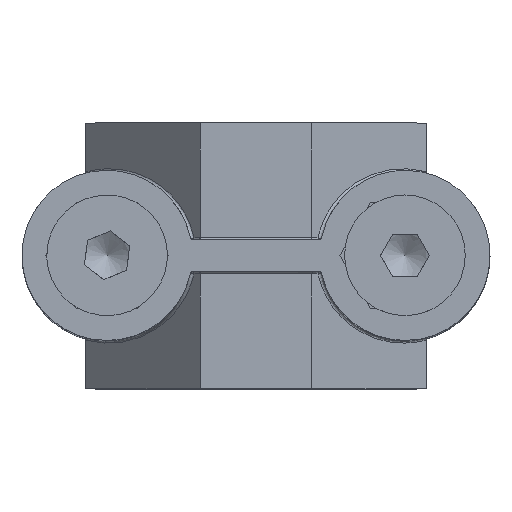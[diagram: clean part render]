
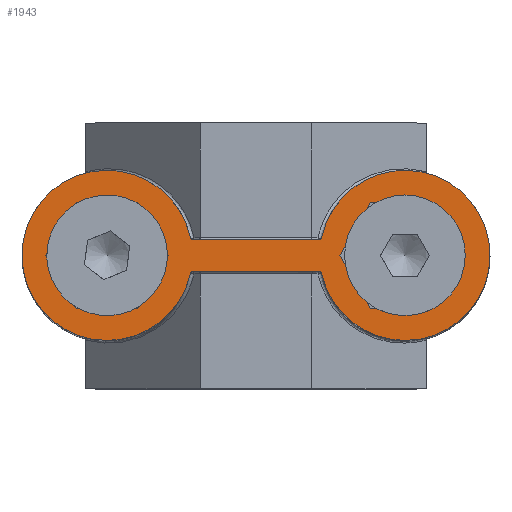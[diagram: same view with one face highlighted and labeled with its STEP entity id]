
A CAD part, top view. The second image highlights one B-rep face of the part: STEP entity #1943.
In plain terms, the highlighted planar face has unit normal (0, 0, 1).
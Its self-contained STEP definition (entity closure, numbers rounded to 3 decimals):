
#84=CARTESIAN_POINT('',(-5.978,-1.5,16.5));
#85=VERTEX_POINT('',#84);
#92=CARTESIAN_POINT('',(-6.174,-1.659,16.5));
#93=VERTEX_POINT('',#92);
#94=CARTESIAN_POINT('',(-5.978,-1.7,16.5));
#95=DIRECTION('',(0.0,0.0,1.0));
#96=DIRECTION('',(-0.63,0.777,0.0));
#97=AXIS2_PLACEMENT_3D('',#94,#95,#96);
#98=CIRCLE('',#97,0.2);
#99=EDGE_CURVE('',#85,#93,#98,.T.);
#220=CARTESIAN_POINT('',(5.978,-1.5,16.5));
#221=VERTEX_POINT('',#220);
#228=CARTESIAN_POINT('',(5.978,-1.5,16.5));
#229=DIRECTION('',(-1.0,0.0,0.0));
#230=VECTOR('',#229,11.956);
#231=LINE('',#228,#230);
#232=EDGE_CURVE('',#221,#85,#231,.T.);
#293=CARTESIAN_POINT('',(-6.174,1.659,16.5));
#294=VERTEX_POINT('',#293);
#301=CARTESIAN_POINT('',(-5.978,1.5,16.5));
#302=VERTEX_POINT('',#301);
#303=CARTESIAN_POINT('',(-5.978,1.7,16.5));
#304=DIRECTION('',(0.0,0.0,1.));
#305=DIRECTION('',(-0.63,-0.777,0.0));
#306=AXIS2_PLACEMENT_3D('',#303,#304,#305);
#307=CIRCLE('',#306,0.2);
#308=EDGE_CURVE('',#294,#302,#307,.T.);
#381=CARTESIAN_POINT('',(5.978,1.5,16.5));
#382=VERTEX_POINT('',#381);
#383=CARTESIAN_POINT('',(-5.978,1.5,16.5));
#384=DIRECTION('',(1.0,0.0,0.0));
#385=VECTOR('',#384,11.956);
#386=LINE('',#383,#385);
#387=EDGE_CURVE('',#302,#382,#386,.T.);
#421=CARTESIAN_POINT('',(6.174,1.659,16.5));
#422=VERTEX_POINT('',#421);
#423=CARTESIAN_POINT('',(5.978,1.7,16.5));
#424=DIRECTION('',(0.0,0.0,1.));
#425=DIRECTION('',(0.63,-0.777,0.0));
#426=AXIS2_PLACEMENT_3D('',#423,#424,#425);
#427=CIRCLE('',#426,0.2);
#428=EDGE_CURVE('',#382,#422,#427,.T.);
#566=CARTESIAN_POINT('',(6.174,-1.659,16.5));
#567=VERTEX_POINT('',#566);
#574=CARTESIAN_POINT('',(5.978,-1.7,16.5));
#575=DIRECTION('',(0.0,0.0,1.0));
#576=DIRECTION('',(0.63,0.777,0.0));
#577=AXIS2_PLACEMENT_3D('',#574,#575,#576);
#578=CIRCLE('',#577,0.2);
#579=EDGE_CURVE('',#567,#221,#578,.T.);
#773=CARTESIAN_POINT('',(-14.0,0.,16.5));
#774=DIRECTION('',(0.0,0.0,-1.0));
#775=DIRECTION('',(1.0,0.0,0.0));
#776=AXIS2_PLACEMENT_3D('',#773,#774,#775);
#777=CIRCLE('',#776,8.0);
#778=EDGE_CURVE('',#93,#294,#777,.T.);
#1158=CARTESIAN_POINT('',(14.0,0.,16.5));
#1159=DIRECTION('',(0.0,0.0,-1.0));
#1160=DIRECTION('',(1.0,0.0,0.0));
#1161=AXIS2_PLACEMENT_3D('',#1158,#1159,#1160);
#1162=CIRCLE('',#1161,8.0);
#1163=EDGE_CURVE('',#422,#567,#1162,.T.);
#1348=CARTESIAN_POINT('',(7.886,0.,16.5));
#1349=VERTEX_POINT('',#1348);
#1356=CARTESIAN_POINT('',(10.772,-5.,16.5));
#1357=VERTEX_POINT('',#1356);
#1358=CARTESIAN_POINT('',(10.772,-5.,16.5));
#1359=DIRECTION('',(-0.5,0.866,0.0));
#1360=VECTOR('',#1359,5.774);
#1361=LINE('',#1358,#1360);
#1362=EDGE_CURVE('',#1357,#1349,#1361,.T.);
#1387=CARTESIAN_POINT('',(16.546,-5.,16.5));
#1388=VERTEX_POINT('',#1387);
#1389=CARTESIAN_POINT('',(16.546,-5.,16.5));
#1390=DIRECTION('',(-1.0,0.0,0.0));
#1391=VECTOR('',#1390,5.774);
#1392=LINE('',#1389,#1391);
#1393=EDGE_CURVE('',#1388,#1357,#1392,.T.);
#1418=CARTESIAN_POINT('',(19.433,0.,16.5));
#1419=VERTEX_POINT('',#1418);
#1420=CARTESIAN_POINT('',(19.433,0.,16.5));
#1421=DIRECTION('',(-0.5,-0.866,0.0));
#1422=VECTOR('',#1421,5.774);
#1423=LINE('',#1420,#1422);
#1424=EDGE_CURVE('',#1419,#1388,#1423,.T.);
#1449=CARTESIAN_POINT('',(16.546,5.,16.5));
#1450=VERTEX_POINT('',#1449);
#1451=CARTESIAN_POINT('',(16.546,5.,16.5));
#1452=DIRECTION('',(0.5,-0.866,0.0));
#1453=VECTOR('',#1452,5.774);
#1454=LINE('',#1451,#1453);
#1455=EDGE_CURVE('',#1450,#1419,#1454,.T.);
#1480=CARTESIAN_POINT('',(10.772,5.,16.5));
#1481=VERTEX_POINT('',#1480);
#1482=CARTESIAN_POINT('',(10.772,5.,16.5));
#1483=DIRECTION('',(1.0,0.0,0.0));
#1484=VECTOR('',#1483,5.774);
#1485=LINE('',#1482,#1484);
#1486=EDGE_CURVE('',#1481,#1450,#1485,.T.);
#1509=CARTESIAN_POINT('',(7.886,0.,16.5));
#1510=DIRECTION('',(0.5,0.866,0.0));
#1511=VECTOR('',#1510,5.774);
#1512=LINE('',#1509,#1511);
#1513=EDGE_CURVE('',#1349,#1481,#1512,.T.);
#1559=CARTESIAN_POINT('',(-16.887,-5.,16.5));
#1560=VERTEX_POINT('',#1559);
#1567=CARTESIAN_POINT('',(-11.113,-5.,16.5));
#1568=VERTEX_POINT('',#1567);
#1569=CARTESIAN_POINT('',(-11.113,-5.,16.5));
#1570=DIRECTION('',(-1.0,0.0,0.0));
#1571=VECTOR('',#1570,5.774);
#1572=LINE('',#1569,#1571);
#1573=EDGE_CURVE('',#1568,#1560,#1572,.T.);
#1598=CARTESIAN_POINT('',(-8.226,0.,16.5));
#1599=VERTEX_POINT('',#1598);
#1600=CARTESIAN_POINT('',(-8.226,0.,16.5));
#1601=DIRECTION('',(-0.5,-0.866,0.0));
#1602=VECTOR('',#1601,5.774);
#1603=LINE('',#1600,#1602);
#1604=EDGE_CURVE('',#1599,#1568,#1603,.T.);
#1629=CARTESIAN_POINT('',(-11.113,5.,16.5));
#1630=VERTEX_POINT('',#1629);
#1631=CARTESIAN_POINT('',(-11.113,5.,16.5));
#1632=DIRECTION('',(0.5,-0.866,0.0));
#1633=VECTOR('',#1632,5.774);
#1634=LINE('',#1631,#1633);
#1635=EDGE_CURVE('',#1630,#1599,#1634,.T.);
#1660=CARTESIAN_POINT('',(-16.887,5.,16.5));
#1661=VERTEX_POINT('',#1660);
#1662=CARTESIAN_POINT('',(-16.887,5.,16.5));
#1663=DIRECTION('',(1.0,0.0,0.0));
#1664=VECTOR('',#1663,5.774);
#1665=LINE('',#1662,#1664);
#1666=EDGE_CURVE('',#1661,#1630,#1665,.T.);
#1691=CARTESIAN_POINT('',(-19.774,0.,16.5));
#1692=VERTEX_POINT('',#1691);
#1693=CARTESIAN_POINT('',(-19.774,0.,16.5));
#1694=DIRECTION('',(0.5,0.866,0.0));
#1695=VECTOR('',#1694,5.774);
#1696=LINE('',#1693,#1695);
#1697=EDGE_CURVE('',#1692,#1661,#1696,.T.);
#1720=CARTESIAN_POINT('',(-16.887,-5.,16.5));
#1721=DIRECTION('',(-0.5,0.866,0.0));
#1722=VECTOR('',#1721,5.774);
#1723=LINE('',#1720,#1722);
#1724=EDGE_CURVE('',#1560,#1692,#1723,.T.);
#1912=CARTESIAN_POINT('',(0.,0.,16.5));
#1913=DIRECTION('',(0.0,0.0,1.0));
#1914=DIRECTION('',(1.0,0.0,0.0));
#1915=AXIS2_PLACEMENT_3D('',#1912,#1913,#1914);
#1916=PLANE('',#1915);
#1917=ORIENTED_EDGE('',*,*,#428,.F.);
#1918=ORIENTED_EDGE('',*,*,#387,.F.);
#1919=ORIENTED_EDGE('',*,*,#308,.F.);
#1920=ORIENTED_EDGE('',*,*,#778,.F.);
#1921=ORIENTED_EDGE('',*,*,#99,.F.);
#1922=ORIENTED_EDGE('',*,*,#232,.F.);
#1923=ORIENTED_EDGE('',*,*,#579,.F.);
#1924=ORIENTED_EDGE('',*,*,#1163,.F.);
#1925=EDGE_LOOP('',(#1917,#1918,#1919,#1920,#1921,#1922,#1923,#1924));
#1926=FACE_OUTER_BOUND('',#1925,.T.);
#1927=ORIENTED_EDGE('',*,*,#1362,.T.);
#1928=ORIENTED_EDGE('',*,*,#1513,.T.);
#1929=ORIENTED_EDGE('',*,*,#1486,.T.);
#1930=ORIENTED_EDGE('',*,*,#1455,.T.);
#1931=ORIENTED_EDGE('',*,*,#1424,.T.);
#1932=ORIENTED_EDGE('',*,*,#1393,.T.);
#1933=EDGE_LOOP('',(#1927,#1928,#1929,#1930,#1931,#1932));
#1934=FACE_BOUND('',#1933,.T.);
#1935=ORIENTED_EDGE('',*,*,#1573,.T.);
#1936=ORIENTED_EDGE('',*,*,#1724,.T.);
#1937=ORIENTED_EDGE('',*,*,#1697,.T.);
#1938=ORIENTED_EDGE('',*,*,#1666,.T.);
#1939=ORIENTED_EDGE('',*,*,#1635,.T.);
#1940=ORIENTED_EDGE('',*,*,#1604,.T.);
#1941=EDGE_LOOP('',(#1935,#1936,#1937,#1938,#1939,#1940));
#1942=FACE_BOUND('',#1941,.T.);
#1943=ADVANCED_FACE('',(#1926,#1934,#1942),#1916,.T.);
